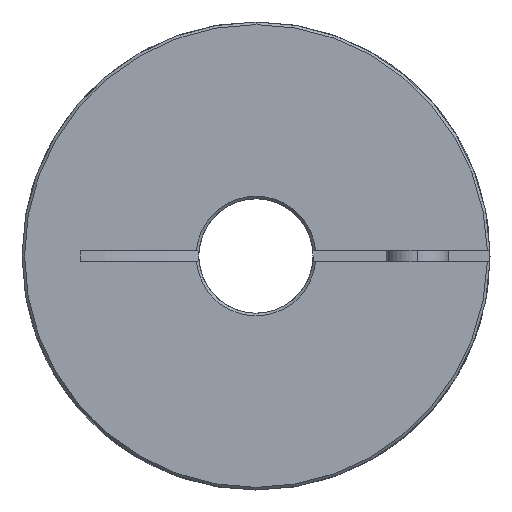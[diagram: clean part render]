
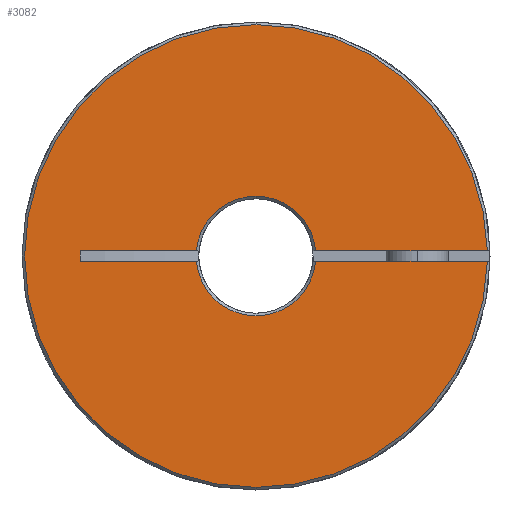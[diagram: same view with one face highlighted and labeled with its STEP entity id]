
A CAD part, left-side view. The second image highlights one B-rep face of the part: STEP entity #3082.
In plain terms, the highlighted planar face has unit normal (-1, 0, 0).
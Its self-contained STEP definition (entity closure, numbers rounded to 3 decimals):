
#180 = VERTEX_POINT ( 'NONE', #2195 ) ;
#197 = EDGE_CURVE ( 'NONE', #2702, #180, #2292, .T. ) ;
#221 = VERTEX_POINT ( 'NONE', #2491 ) ;
#286 = EDGE_CURVE ( 'NONE', #1561, #2769, #3006, .T. ) ;
#294 = VERTEX_POINT ( 'NONE', #3070 ) ;
#311 = ORIENTED_EDGE ( 'NONE', *, *, #286, .T. ) ;
#312 = EDGE_CURVE ( 'NONE', #294, #180, #3166, .T. ) ;
#356 = EDGE_LOOP ( 'NONE', ( #311, #1034, #781, #599, #2736, #1930, #3704, #3258, #366, #410, #666 ) ) ;
#366 = ORIENTED_EDGE ( 'NONE', *, *, #197, .T. ) ;
#375 = VERTEX_POINT ( 'NONE', #984 ) ;
#389 = EDGE_CURVE ( 'NONE', #221, #375, #1100, .T. ) ;
#410 = ORIENTED_EDGE ( 'NONE', *, *, #312, .F. ) ;
#503 = VERTEX_POINT ( 'NONE', #1667 ) ;
#539 = EDGE_CURVE ( 'NONE', #671, #503, #1861, .T. ) ;
#599 = ORIENTED_EDGE ( 'NONE', *, *, #539, .T. ) ;
#617 = EDGE_CURVE ( 'NONE', #294, #1561, #2218, .T. ) ;
#666 = ORIENTED_EDGE ( 'NONE', *, *, #617, .T. ) ;
#671 = VERTEX_POINT ( 'NONE', #2414 ) ;
#727 = EDGE_CURVE ( 'NONE', #3848, #671, #2609, .T. ) ;
#736 = VERTEX_POINT ( 'NONE', #2640 ) ;
#768 = EDGE_CURVE ( 'NONE', #736, #221, #2749, .T. ) ;
#781 = ORIENTED_EDGE ( 'NONE', *, *, #727, .T. ) ;
#984 = CARTESIAN_POINT ( 'NONE',  ( 0., -44.489, -1. ) ) ;
#1034 = ORIENTED_EDGE ( 'NONE', *, *, #2981, .T. ) ;
#1093 = CIRCLE ( 'NONE', #1094, 44.5 ) ;
#1094 = AXIS2_PLACEMENT_3D ( 'NONE', #1095, #1096, #1097 ) ;
#1095 = CARTESIAN_POINT ( 'NONE',  ( 0., 0., 0. ) ) ;
#1096 = DIRECTION ( 'NONE',  ( -1., 0., 0. ) ) ;
#1097 = DIRECTION ( 'NONE',  ( 0., 0., -1. ) ) ;
#1100 = CIRCLE ( 'NONE', #1101, 44.5 ) ;
#1101 = AXIS2_PLACEMENT_3D ( 'NONE', #1102, #1103, #1104 ) ;
#1102 = CARTESIAN_POINT ( 'NONE',  ( 0., 0., 0. ) ) ;
#1103 = DIRECTION ( 'NONE',  ( -1., 0., 0. ) ) ;
#1104 = DIRECTION ( 'NONE',  ( 0., 0., -1. ) ) ;
#1248 = CARTESIAN_POINT ( 'NONE',  ( 0., -11.456, -1. ) ) ;
#1279 = CARTESIAN_POINT ( 'NONE',  ( 0., 11.456, 1. ) ) ;
#1377 = LINE ( 'NONE', #1378, #1379 ) ;
#1378 = CARTESIAN_POINT ( 'NONE',  ( 0., 11., -1. ) ) ;
#1379 = VECTOR ( 'NONE', #1380, 1000. ) ;
#1380 = DIRECTION ( 'NONE',  ( 0., -1., 0. ) ) ;
#1432 = CIRCLE ( 'NONE', #1433, 11.5 ) ;
#1433 = AXIS2_PLACEMENT_3D ( 'NONE', #1434, #1435, #1436 ) ;
#1434 = CARTESIAN_POINT ( 'NONE',  ( 0., 0., 0. ) ) ;
#1435 = DIRECTION ( 'NONE',  ( 1., 0., 0. ) ) ;
#1436 = DIRECTION ( 'NONE',  ( 0., 0., -1. ) ) ;
#1469 = FACE_OUTER_BOUND ( 'NONE', #356, .T. ) ;
#1470 = PLANE ( 'NONE',  #1471 ) ;
#1471 = AXIS2_PLACEMENT_3D ( 'NONE', #1472, #1473, #1474 ) ;
#1472 = CARTESIAN_POINT ( 'NONE',  ( 0., 11., 0. ) ) ;
#1473 = DIRECTION ( 'NONE',  ( 1., 0., 0. ) ) ;
#1474 = DIRECTION ( 'NONE',  ( 0., 0., -1. ) ) ;
#1561 = VERTEX_POINT ( 'NONE', #3465 ) ;
#1667 = CARTESIAN_POINT ( 'NONE',  ( 0., -44.489, 1. ) ) ;
#1861 = LINE ( 'NONE', #1862, #1863 ) ;
#1862 = CARTESIAN_POINT ( 'NONE',  ( 0., 11., 1. ) ) ;
#1863 = VECTOR ( 'NONE', #1864, 1000. ) ;
#1864 = DIRECTION ( 'NONE',  ( 0., -1., 0. ) ) ;
#1930 = ORIENTED_EDGE ( 'NONE', *, *, #768, .T. ) ;
#2182 = CARTESIAN_POINT ( 'NONE',  ( 0., 0., 11.5 ) ) ;
#2195 = CARTESIAN_POINT ( 'NONE',  ( 0., 11.456, -1. ) ) ;
#2218 = LINE ( 'NONE', #2219, #2220 ) ;
#2219 = CARTESIAN_POINT ( 'NONE',  ( 0., 33.786, -1. ) ) ;
#2220 = VECTOR ( 'NONE', #2221, 1000. ) ;
#2221 = DIRECTION ( 'NONE',  ( 0., 0., 1. ) ) ;
#2292 = CIRCLE ( 'NONE', #2293, 11.5 ) ;
#2293 = AXIS2_PLACEMENT_3D ( 'NONE', #2295, #2296, #2297 ) ;
#2295 = CARTESIAN_POINT ( 'NONE',  ( 0., 0., 0. ) ) ;
#2296 = DIRECTION ( 'NONE',  ( 1., 0., 0. ) ) ;
#2297 = DIRECTION ( 'NONE',  ( 0., 0., -1. ) ) ;
#2414 = CARTESIAN_POINT ( 'NONE',  ( 0., -11.456, 1. ) ) ;
#2418 = EDGE_CURVE ( 'NONE', #503, #736, #1093, .T. ) ;
#2491 = CARTESIAN_POINT ( 'NONE',  ( 0., 0., -44.5 ) ) ;
#2609 = CIRCLE ( 'NONE', #2610, 11.5 ) ;
#2610 = AXIS2_PLACEMENT_3D ( 'NONE', #2611, #2614, #2615 ) ;
#2611 = CARTESIAN_POINT ( 'NONE',  ( 0., 0., 0. ) ) ;
#2614 = DIRECTION ( 'NONE',  ( 1., 0., 0. ) ) ;
#2615 = DIRECTION ( 'NONE',  ( 0., 0., -1. ) ) ;
#2640 = CARTESIAN_POINT ( 'NONE',  ( 0., 0., 44.5 ) ) ;
#2702 = VERTEX_POINT ( 'NONE', #1248 ) ;
#2736 = ORIENTED_EDGE ( 'NONE', *, *, #2418, .T. ) ;
#2749 = CIRCLE ( 'NONE', #2750, 44.5 ) ;
#2750 = AXIS2_PLACEMENT_3D ( 'NONE', #2751, #2752, #2753 ) ;
#2751 = CARTESIAN_POINT ( 'NONE',  ( 0., 0., 0. ) ) ;
#2752 = DIRECTION ( 'NONE',  ( -1., 0., 0. ) ) ;
#2753 = DIRECTION ( 'NONE',  ( 0., 0., -1. ) ) ;
#2769 = VERTEX_POINT ( 'NONE', #1279 ) ;
#2910 = EDGE_CURVE ( 'NONE', #2702, #375, #1377, .T. ) ;
#2981 = EDGE_CURVE ( 'NONE', #2769, #3848, #1432, .T. ) ;
#3006 = LINE ( 'NONE', #3007, #3008 ) ;
#3007 = CARTESIAN_POINT ( 'NONE',  ( 0., 11., 1. ) ) ;
#3008 = VECTOR ( 'NONE', #3009, 1000. ) ;
#3009 = DIRECTION ( 'NONE',  ( 0., -1., 0. ) ) ;
#3070 = CARTESIAN_POINT ( 'NONE',  ( 0., 33.786, -1. ) ) ;
#3082 = ADVANCED_FACE ( 'NONE', ( #1469 ), #1470, .F. ) ;
#3166 = LINE ( 'NONE', #3167, #3169 ) ;
#3167 = CARTESIAN_POINT ( 'NONE',  ( 0., 11., -1. ) ) ;
#3169 = VECTOR ( 'NONE', #3170, 1000. ) ;
#3170 = DIRECTION ( 'NONE',  ( 0., -1., 0. ) ) ;
#3258 = ORIENTED_EDGE ( 'NONE', *, *, #2910, .F. ) ;
#3465 = CARTESIAN_POINT ( 'NONE',  ( 0., 33.786, 1. ) ) ;
#3704 = ORIENTED_EDGE ( 'NONE', *, *, #389, .T. ) ;
#3848 = VERTEX_POINT ( 'NONE', #2182 ) ;
